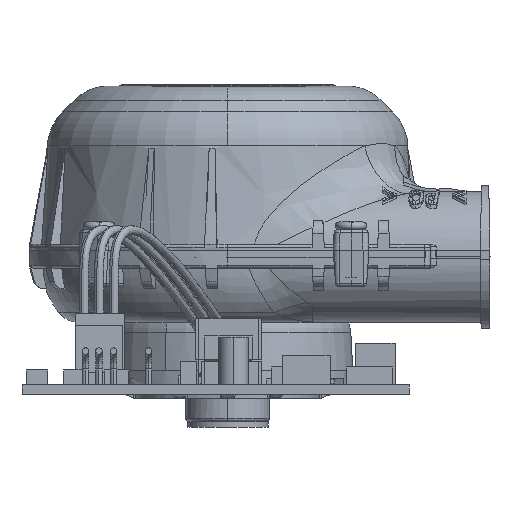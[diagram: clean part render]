
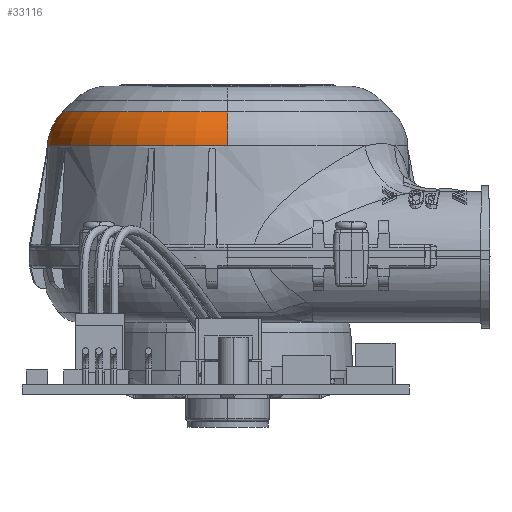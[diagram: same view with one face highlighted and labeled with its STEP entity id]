
A CAD part, left-side view. The second image highlights one B-rep face of the part: STEP entity #33116.
In plain terms, the highlighted toroidal (fillet/blend) face has major radius 21.299 mm and minor radius 9 mm.
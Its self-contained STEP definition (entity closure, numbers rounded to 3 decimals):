
#27089=CARTESIAN_POINT('',(-21.299,0.,
16.858));
#27090=DIRECTION('',(0.,1.,0.));
#27091=DIRECTION('',(-0.998,0.,0.07));
#27092=AXIS2_PLACEMENT_3D('',#27089,#27090,#27091);
#27114=CARTESIAN_POINT('',(0.,0.,23.19));
#27115=DIRECTION('',(0.,0.,1.));
#27116=DIRECTION('',(1.,0.,0.));
#27117=AXIS2_PLACEMENT_3D('',#27114,#27115,#27116);
#27119=CARTESIAN_POINT('',(0.,0.,23.19));
#27120=DIRECTION('',(0.,0.,1.));
#27121=DIRECTION('',(-1.,0.007,0.));
#27122=AXIS2_PLACEMENT_3D('',#27119,#27120,#27121);
#27124=CARTESIAN_POINT('',(0.,0.,17.485));
#27125=DIRECTION('',(0.,0.,-1.));
#27126=DIRECTION('',(-1.,0.,0.));
#27127=AXIS2_PLACEMENT_3D('',#27124,#27125,#27126);
#27129=CARTESIAN_POINT('',(0.,0.,17.485));
#27130=DIRECTION('',(0.,0.,-1.));
#27131=DIRECTION('',(-1.,0.007,0.));
#27132=AXIS2_PLACEMENT_3D('',#27129,#27130,#27131);
#27134=CARTESIAN_POINT('',(21.299,0.,
16.858));
#27135=DIRECTION('',(0.,-1.,0.));
#27136=DIRECTION('',(0.998,0.,0.07));
#27137=AXIS2_PLACEMENT_3D('',#27134,#27135,#27136);
#30324=CARTESIAN_POINT('',(30.277,0.,
17.485));
#30325=VERTEX_POINT('',#30324);
#30326=CARTESIAN_POINT('',(-30.277,0.2,
17.485));
#30327=VERTEX_POINT('',#30326);
#30328=CARTESIAN_POINT('',(-30.277,0.,17.485));
#30329=VERTEX_POINT('',#30328);
#30510=CARTESIAN_POINT('',(-27.694,0.,
23.19));
#30511=VERTEX_POINT('',#30510);
#30514=CARTESIAN_POINT('',(27.694,0.,
23.19));
#30515=VERTEX_POINT('',#30514);
#30516=CARTESIAN_POINT('',(-27.694,0.183,
23.19));
#30517=VERTEX_POINT('',#30516);
#33101=CARTESIAN_POINT('',(0.,0.,16.858));
#33102=DIRECTION('',(0.,0.,-1.));
#33103=DIRECTION('',(1.,-0.007,0.));
#33104=AXIS2_PLACEMENT_3D('',#33101,#33102,#33103);
#33105=TOROIDAL_SURFACE('',#33104,21.299,9.);
#33107=ORIENTED_EDGE('',*,*,#33106,.T.);
#33109=ORIENTED_EDGE('',*,*,#33108,.T.);
#33110=ORIENTED_EDGE('',*,*,#33088,.F.);
#33111=ORIENTED_EDGE('',*,*,#31891,.T.);
#33112=ORIENTED_EDGE('',*,*,#31889,.T.);
#33113=ORIENTED_EDGE('',*,*,#33094,.T.);
#33114=EDGE_LOOP('',(#33107,#33109,#33110,#33111,#33112,#33113));
#33115=FACE_OUTER_BOUND('',#33114,.F.);
#27093=CIRCLE('',#27092,9.);
#27118=CIRCLE('',#27117,27.694);
#27123=CIRCLE('',#27122,27.694);
#27128=CIRCLE('',#27127,30.277);
#27133=CIRCLE('',#27132,30.277);
#27138=CIRCLE('',#27137,9.);
#31889=EDGE_CURVE('',#30327,#30325,#27133,.T.);
#31891=EDGE_CURVE('',#30329,#30327,#27128,.T.);
#33088=EDGE_CURVE('',#30329,#30511,#27093,.T.);
#33094=EDGE_CURVE('',#30325,#30515,#27138,.T.);
#33106=EDGE_CURVE('',#30515,#30517,#27118,.T.);
#33108=EDGE_CURVE('',#30517,#30511,#27123,.T.);
#33116=ADVANCED_FACE('',(#33115),#33105,.T.);
